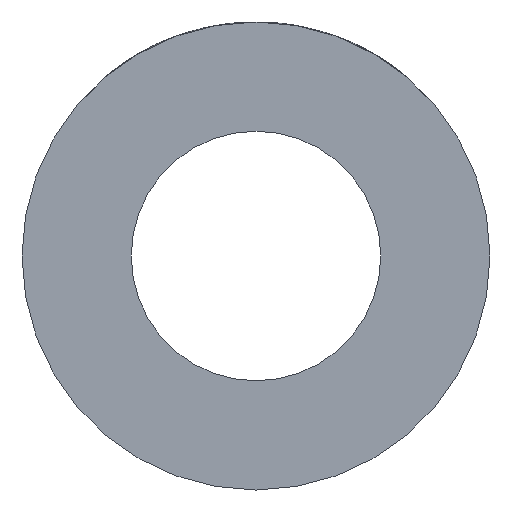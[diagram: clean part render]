
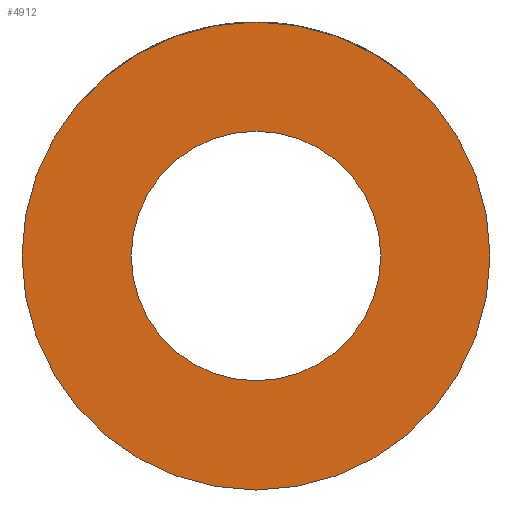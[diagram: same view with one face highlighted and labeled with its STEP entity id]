
A CAD part, left-side view. The second image highlights one B-rep face of the part: STEP entity #4912.
In plain terms, the highlighted planar face has unit normal (-1, 0, 0).
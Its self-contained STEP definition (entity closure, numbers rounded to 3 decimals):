
#112=PLANE('',#5295);
#337=CIRCLE('',#5294,7.5);
#338=CIRCLE('',#5296,4.);
#1462=ORIENTED_EDGE('',*,*,#2940,.T.);
#1463=ORIENTED_EDGE('',*,*,#2939,.F.);
#2939=EDGE_CURVE('',#3678,#3678,#337,.T.);
#2940=EDGE_CURVE('',#3679,#3679,#338,.T.);
#3678=VERTEX_POINT('',#7710);
#3679=VERTEX_POINT('',#7713);
#4175=EDGE_LOOP('',(#1462));
#4176=EDGE_LOOP('',(#1463));
#4537=FACE_BOUND('',#4175,.T.);
#4538=FACE_BOUND('',#4176,.T.);
#4912=ADVANCED_FACE('',(#4537,#4538),#112,.F.);
#5294=AXIS2_PLACEMENT_3D('',#7709,#5802,#5803);
#5295=AXIS2_PLACEMENT_3D('',#7711,#5804,#5805);
#5296=AXIS2_PLACEMENT_3D('',#7712,#5806,#5807);
#5802=DIRECTION('',(1.,0.,0.));
#5803=DIRECTION('',(0.,0.,-1.));
#5804=DIRECTION('',(1.,0.,0.));
#5805=DIRECTION('',(0.,0.,-1.));
#5806=DIRECTION('',(1.,0.,0.));
#5807=DIRECTION('',(0.,0.,-1.));
#7709=CARTESIAN_POINT('',(-22.5,0.,0.));
#7710=CARTESIAN_POINT('',(-22.5,0.,-7.5));
#7711=CARTESIAN_POINT('',(-22.5,0.,0.));
#7712=CARTESIAN_POINT('',(-22.5,0.,0.));
#7713=CARTESIAN_POINT('',(-22.5,0.,-4.));
